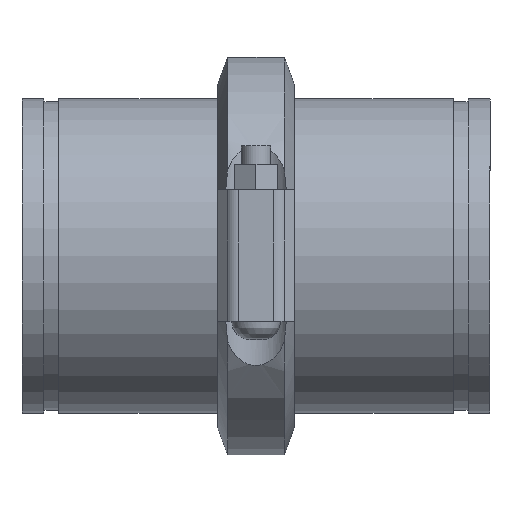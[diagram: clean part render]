
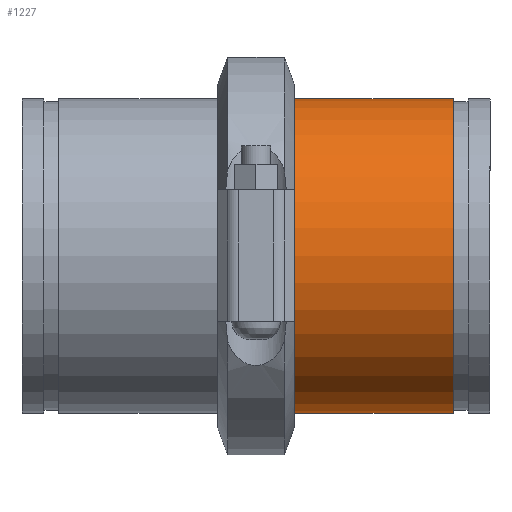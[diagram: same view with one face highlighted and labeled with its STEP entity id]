
A CAD part, top view. The second image highlights one B-rep face of the part: STEP entity #1227.
In plain terms, the highlighted cylindrical face has radius 136.525 mm (diameter 273.05 mm), a full revolution.
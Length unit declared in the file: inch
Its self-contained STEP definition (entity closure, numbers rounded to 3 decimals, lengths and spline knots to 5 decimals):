
#60=LINE('',#1914,#141);
#141=VECTOR('',#1561,5.375);
#222=CYLINDRICAL_SURFACE('',#1386,5.375);
#267=FACE_OUTER_BOUND('',#340,.T.);
#340=EDGE_LOOP('',(#805,#806,#807,#808,#809,#810));
#430=CIRCLE('',#1384,5.375);
#431=CIRCLE('',#1385,5.375);
#432=CIRCLE('',#1387,5.375);
#433=CIRCLE('',#1388,5.375);
#498=VERTEX_POINT('',#1905);
#499=VERTEX_POINT('',#1906);
#500=VERTEX_POINT('',#1910);
#501=VERTEX_POINT('',#1911);
#619=EDGE_CURVE('',#498,#499,#430,.T.);
#620=EDGE_CURVE('',#499,#498,#431,.T.);
#621=EDGE_CURVE('',#500,#501,#432,.T.);
#622=EDGE_CURVE('',#501,#500,#433,.T.);
#623=EDGE_CURVE('',#501,#499,#60,.T.);
#805=ORIENTED_EDGE('',*,*,#621,.F.);
#806=ORIENTED_EDGE('',*,*,#622,.F.);
#807=ORIENTED_EDGE('',*,*,#623,.T.);
#808=ORIENTED_EDGE('',*,*,#620,.T.);
#809=ORIENTED_EDGE('',*,*,#619,.T.);
#810=ORIENTED_EDGE('',*,*,#623,.F.);
#1227=ADVANCED_FACE('',(#267),#222,.T.);
#1384=AXIS2_PLACEMENT_3D('',#1907,#1551,#1552);
#1385=AXIS2_PLACEMENT_3D('',#1908,#1553,#1554);
#1386=AXIS2_PLACEMENT_3D('',#1909,#1555,#1556);
#1387=AXIS2_PLACEMENT_3D('',#1912,#1557,#1558);
#1388=AXIS2_PLACEMENT_3D('',#1913,#1559,#1560);
#1551=DIRECTION('center_axis',(-1.,0.,0.));
#1552=DIRECTION('ref_axis',(0.,0.,1.));
#1553=DIRECTION('center_axis',(-1.,0.,0.));
#1554=DIRECTION('ref_axis',(0.,0.,1.));
#1555=DIRECTION('center_axis',(-1.,0.,0.));
#1556=DIRECTION('ref_axis',(0.,1.,0.));
#1557=DIRECTION('center_axis',(-1.,0.,0.));
#1558=DIRECTION('ref_axis',(0.,0.,1.));
#1559=DIRECTION('center_axis',(-1.,0.,0.));
#1560=DIRECTION('ref_axis',(0.,0.,1.));
#1561=DIRECTION('',(1.,0.,0.));
#1905=CARTESIAN_POINT('',(2.75,5.375,0.));
#1906=CARTESIAN_POINT('',(2.75,-5.375,0.));
#1907=CARTESIAN_POINT('Origin',(2.75,0.,0.));
#1908=CARTESIAN_POINT('Origin',(2.75,0.,0.));
#1909=CARTESIAN_POINT('Origin',(0.,0.,
0.));
#1910=CARTESIAN_POINT('',(-2.75,5.375,0.));
#1911=CARTESIAN_POINT('',(-2.75,-5.375,0.));
#1912=CARTESIAN_POINT('Origin',(-2.75,0.,0.));
#1913=CARTESIAN_POINT('Origin',(-2.75,0.,0.));
#1914=CARTESIAN_POINT('',(0.,-5.375,0.));
